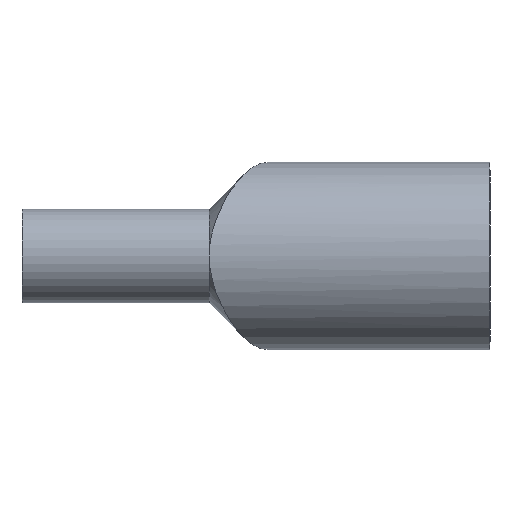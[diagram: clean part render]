
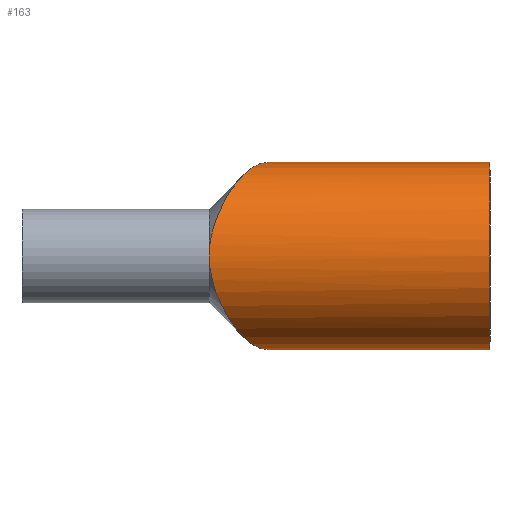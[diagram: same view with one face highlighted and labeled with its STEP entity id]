
A CAD part, front view. The second image highlights one B-rep face of the part: STEP entity #163.
In plain terms, the highlighted cylindrical face has radius 12.7 mm (diameter 25.4 mm), a partial arc.
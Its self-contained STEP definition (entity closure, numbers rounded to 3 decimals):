
#1 = CARTESIAN_POINT ( 'NONE',  ( -36.026, -10.292, -7.46 ) ) ;
#4 = CARTESIAN_POINT ( 'NONE',  ( -35.535, -9.622, -8.306 ) ) ;
#5 = CARTESIAN_POINT ( 'NONE',  ( -30.251, 0., -12.7 ) ) ;
#8 = CARTESIAN_POINT ( 'NONE',  ( -35.283, -9.264, -8.704 ) ) ;
#10 = CARTESIAN_POINT ( 'NONE',  ( -38.1, -12.7, 0.597 ) ) ;
#45 = CARTESIAN_POINT ( 'NONE',  ( -34.77, -8.502, -9.449 ) ) ;
#46 = CARTESIAN_POINT ( 'NONE',  ( -34.508, -8.097, -9.798 ) ) ;
#50 = CARTESIAN_POINT ( 'NONE',  ( -32.904, -5.384, -11.516 ) ) ;
#52 = CARTESIAN_POINT ( 'NONE',  ( -32.494, -4.621, -11.833 ) ) ;
#56 = CARTESIAN_POINT ( 'NONE',  ( -32.358, -4.363, -11.93 ) ) ;
#58 = CARTESIAN_POINT ( 'NONE',  ( -38.1, -12.7, 0. ) ) ;
#79 = CARTESIAN_POINT ( 'NONE',  ( 0., 0., 0. ) ) ;
#85 = CARTESIAN_POINT ( 'NONE',  ( -32.085, -3.838, -12.109 ) ) ;
#87 = CARTESIAN_POINT ( 'NONE',  ( -37.779, -12.373, -2.922 ) ) ;
#89 = CARTESIAN_POINT ( 'NONE',  ( -31.949, -3.57, -12.191 ) ) ;
#95 = CARTESIAN_POINT ( 'NONE',  ( -38.048, -12.648, -1.189 ) ) ;
#99 = CARTESIAN_POINT ( 'NONE',  ( -37.897, -12.494, -2.351 ) ) ;
#102 = VERTEX_POINT ( 'NONE', #114 ) ;
#107 = VERTEX_POINT ( 'NONE', #5 ) ;
#114 = CARTESIAN_POINT ( 'NONE',  ( 0., 0., 12.7 ) ) ;
#120 = LINE ( 'NONE', #511, #204 ) ;
#126 = CARTESIAN_POINT ( 'NONE',  ( -38.1, -12.7, 0. ) ) ;
#138 = DIRECTION ( 'NONE',  ( 1., 0., 0. ) ) ;
#143 = CARTESIAN_POINT ( 'NONE',  ( -31.274, -2.228, -12.552 ) ) ;
#144 = VERTEX_POINT ( 'NONE', #262 ) ;
#146 = CARTESIAN_POINT ( 'NONE',  ( -38.089, -12.689, -0.598 ) ) ;
#154 = CARTESIAN_POINT ( 'NONE',  ( -38.017, -12.617, -1.481 ) ) ;
#156 = CARTESIAN_POINT ( 'NONE',  ( -32.355, -4.361, 11.94 ) ) ;
#163 = ADVANCED_FACE ( 'NONE', ( #605 ), #461, .T. ) ;
#168 = CARTESIAN_POINT ( 'NONE',  ( -37.311, -11.865, 4.562 ) ) ;
#172 = CARTESIAN_POINT ( 'NONE',  ( -37.938, -12.536, 2.056 ) ) ;
#184 = EDGE_CURVE ( 'NONE', #330, #311, #542, .T. ) ;
#190 = EDGE_CURVE ( 'NONE', #407, #330, #227, .T. ) ;
#194 = DIRECTION ( 'NONE',  ( 0., 0., -1. ) ) ;
#195 = ORIENTED_EDGE ( 'NONE', *, *, #228, .F. ) ;
#196 = CARTESIAN_POINT ( 'NONE',  ( -30.755, -1.127, -12.7 ) ) ;
#202 = ORIENTED_EDGE ( 'NONE', *, *, #442, .T. ) ;
#204 = VECTOR ( 'NONE', #138, 1000. ) ;
#227 = B_SPLINE_CURVE_WITH_KNOTS ( 'NONE', 3,
 ( #58, #10, #513, #172, #249, #264, #352, #619, #168, #623, #618, #616, #613, #609, #575, #567, #565, #528, #523, #520 ),
 .UNSPECIFIED., .F., .F.,
 ( 4, 2, 2, 2, 2, 2, 2, 2, 2, 4 ),
 ( 0.008, 0.01, 0.011, 0.011, 0.013, 0.014, 0.015, 0.019, 0.02, 0.022 ),
 .UNSPECIFIED. ) ;
#228 = EDGE_CURVE ( 'NONE', #544, #407, #320, .T. ) ;
#242 = CARTESIAN_POINT ( 'NONE',  ( -30.251, 0., -12.7 ) ) ;
#243 = DIRECTION ( 'NONE',  ( 1., 0., 0. ) ) ;
#249 = CARTESIAN_POINT ( 'NONE',  ( -37.888, -12.485, 2.344 ) ) ;
#250 = CIRCLE ( 'NONE', #408, 12.7 ) ;
#262 = CARTESIAN_POINT ( 'NONE',  ( 0., 0., -12.7 ) ) ;
#264 = CARTESIAN_POINT ( 'NONE',  ( -37.772, -12.364, 2.917 ) ) ;
#273 = CARTESIAN_POINT ( 'NONE',  ( -33.177, -5.875, 11.273 ) ) ;
#274 = VECTOR ( 'NONE', #486, 1000. ) ;
#275 = EDGE_CURVE ( 'NONE', #107, #544, #277, .T. ) ;
#277 = B_SPLINE_CURVE_WITH_KNOTS ( 'NONE', 3,
 ( #242, #196, #143, #89, #85, #56, #52, #50, #376, #538 ),
 .UNSPECIFIED., .F., .F.,
 ( 4, 2, 2, 2, 4 ),
 ( 0.071, 0.074, 0.075, 0.076, 0.078 ),
 .UNSPECIFIED. ) ;
#279 = DIRECTION ( 'NONE',  ( 0., 0., -1. ) ) ;
#287 = LINE ( 'NONE', #374, #274 ) ;
#293 = ORIENTED_EDGE ( 'NONE', *, *, #184, .F. ) ;
#294 = ORIENTED_EDGE ( 'NONE', *, *, #327, .F. ) ;
#303 = CARTESIAN_POINT ( 'NONE',  ( -32.903, -5.382, 11.516 ) ) ;
#306 = CARTESIAN_POINT ( 'NONE',  ( -33.451, -6.35, 10.999 ) ) ;
#311 = VERTEX_POINT ( 'NONE', #392 ) ;
#320 = B_SPLINE_CURVE_WITH_KNOTS ( 'NONE', 3,
 ( #558, #563, #517, #46, #45, #8, #4, #1, #401, #646, #610, #607, #603, #87, #99, #154, #95, #146, #556, #521 ),
 .UNSPECIFIED., .F., .F.,
 ( 4, 2, 2, 2, 2, 2, 2, 2, 2, 4 ),
 ( 0.078, 0.08, 0.081, 0.083, 0.085, 0.087, 0.088, 0.09, 0.091, 0.092 ),
 .UNSPECIFIED. ) ;
#322 = CARTESIAN_POINT ( 'NONE',  ( -33.451, -6.35, 10.999 ) ) ;
#326 = CARTESIAN_POINT ( 'NONE',  ( -63.5, 0., 0. ) ) ;
#327 = EDGE_CURVE ( 'NONE', #311, #102, #287, .T. ) ;
#330 = VERTEX_POINT ( 'NONE', #322 ) ;
#352 = CARTESIAN_POINT ( 'NONE',  ( -37.705, -12.293, 3.201 ) ) ;
#374 = CARTESIAN_POINT ( 'NONE',  ( -63.5, 0., 12.7 ) ) ;
#376 = CARTESIAN_POINT ( 'NONE',  ( -33.177, -5.875, -11.273 ) ) ;
#386 = ORIENTED_EDGE ( 'NONE', *, *, #275, .F. ) ;
#392 = CARTESIAN_POINT ( 'NONE',  ( -30.251, 0., 12.7 ) ) ;
#399 = EDGE_CURVE ( 'NONE', #102, #144, #250, .T. ) ;
#401 = CARTESIAN_POINT ( 'NONE',  ( -36.266, -10.605, -7.008 ) ) ;
#407 = VERTEX_POINT ( 'NONE', #126 ) ;
#408 = AXIS2_PLACEMENT_3D ( 'NONE', #79, #243, #194 ) ;
#442 = EDGE_CURVE ( 'NONE', #107, #144, #120, .T. ) ;
#443 = DIRECTION ( 'NONE',  ( 1., 0., 0. ) ) ;
#447 = EDGE_LOOP ( 'NONE', ( #294, #293, #508, #195, #386, #202, #617 ) ) ;
#461 = CYLINDRICAL_SURFACE ( 'NONE', #587, 12.7 ) ;
#475 = CARTESIAN_POINT ( 'NONE',  ( -33.451, -6.35, -10.999 ) ) ;
#486 = DIRECTION ( 'NONE',  ( 1., 0., 0. ) ) ;
#508 = ORIENTED_EDGE ( 'NONE', *, *, #190, .F. ) ;
#511 = CARTESIAN_POINT ( 'NONE',  ( -63.5, 0., -12.7 ) ) ;
#513 = CARTESIAN_POINT ( 'NONE',  ( -38.058, -12.658, 1.186 ) ) ;
#517 = CARTESIAN_POINT ( 'NONE',  ( -33.979, -7.247, -10.443 ) ) ;
#520 = CARTESIAN_POINT ( 'NONE',  ( -33.451, -6.35, 10.999 ) ) ;
#521 = CARTESIAN_POINT ( 'NONE',  ( -38.1, -12.7, 0. ) ) ;
#523 = CARTESIAN_POINT ( 'NONE',  ( -33.715, -6.806, 10.735 ) ) ;
#528 = CARTESIAN_POINT ( 'NONE',  ( -33.979, -7.247, 10.443 ) ) ;
#538 = CARTESIAN_POINT ( 'NONE',  ( -33.451, -6.35, -10.999 ) ) ;
#542 = B_SPLINE_CURVE_WITH_KNOTS ( 'NONE', 3,
 ( #306, #273, #303, #156, #612, #581, #576, #570 ),
 .UNSPECIFIED., .F., .F.,
 ( 4, 2, 2, 4 ),
 ( 0.022, 0.024, 0.026, 0.029 ),
 .UNSPECIFIED. ) ;
#544 = VERTEX_POINT ( 'NONE', #475 ) ;
#556 = CARTESIAN_POINT ( 'NONE',  ( -38.1, -12.7, -0.298 ) ) ;
#558 = CARTESIAN_POINT ( 'NONE',  ( -33.451, -6.35, -10.999 ) ) ;
#563 = CARTESIAN_POINT ( 'NONE',  ( -33.715, -6.806, -10.735 ) ) ;
#565 = CARTESIAN_POINT ( 'NONE',  ( -34.506, -8.094, 9.801 ) ) ;
#567 = CARTESIAN_POINT ( 'NONE',  ( -34.77, -8.502, 9.45 ) ) ;
#570 = CARTESIAN_POINT ( 'NONE',  ( -30.251, 0., 12.7 ) ) ;
#575 = CARTESIAN_POINT ( 'NONE',  ( -35.539, -9.643, 8.333 ) ) ;
#576 = CARTESIAN_POINT ( 'NONE',  ( -30.755, -1.127, 12.7 ) ) ;
#581 = CARTESIAN_POINT ( 'NONE',  ( -31.273, -2.227, 12.552 ) ) ;
#587 = AXIS2_PLACEMENT_3D ( 'NONE', #326, #443, #279 ) ;
#603 = CARTESIAN_POINT ( 'NONE',  ( -37.484, -12.056, -4.035 ) ) ;
#605 = FACE_OUTER_BOUND ( 'NONE', #447, .T. ) ;
#607 = CARTESIAN_POINT ( 'NONE',  ( -37.31, -11.864, -4.565 ) ) ;
#609 = CARTESIAN_POINT ( 'NONE',  ( -36.032, -10.311, 7.496 ) ) ;
#610 = CARTESIAN_POINT ( 'NONE',  ( -36.926, -11.42, -5.583 ) ) ;
#612 = CARTESIAN_POINT ( 'NONE',  ( -32.079, -3.831, 12.121 ) ) ;
#613 = CARTESIAN_POINT ( 'NONE',  ( -36.598, -11.021, 6.316 ) ) ;
#616 = CARTESIAN_POINT ( 'NONE',  ( -36.709, -11.157, 6.074 ) ) ;
#617 = ORIENTED_EDGE ( 'NONE', *, *, #399, .F. ) ;
#618 = CARTESIAN_POINT ( 'NONE',  ( -36.92, -11.412, 5.581 ) ) ;
#619 = CARTESIAN_POINT ( 'NONE',  ( -37.485, -12.057, 4.031 ) ) ;
#623 = CARTESIAN_POINT ( 'NONE',  ( -37.022, -11.531, 5.33 ) ) ;
#646 = CARTESIAN_POINT ( 'NONE',  ( -36.715, -11.168, -6.071 ) ) ;
